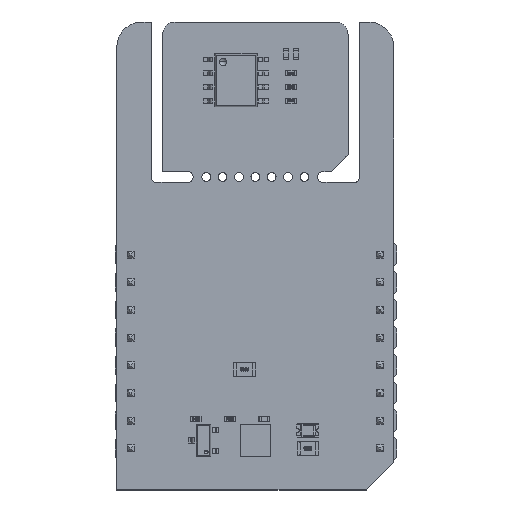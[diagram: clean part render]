
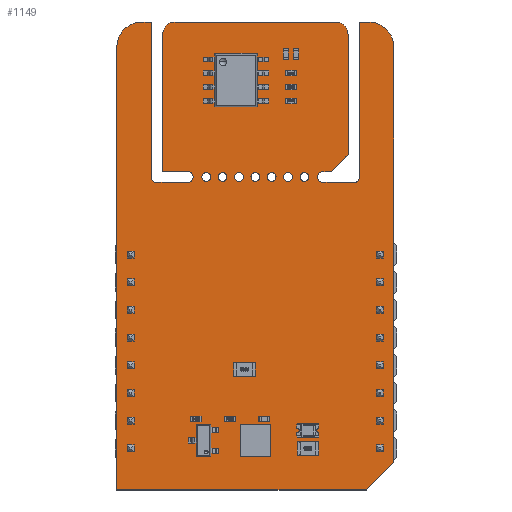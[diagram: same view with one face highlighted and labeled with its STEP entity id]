
A CAD part, top view. The second image highlights one B-rep face of the part: STEP entity #1149.
In plain terms, the highlighted planar face has unit normal (0, 0, 1).
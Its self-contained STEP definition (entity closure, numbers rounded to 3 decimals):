
#112 = VERTEX_POINT('',#113);
#113 = CARTESIAN_POINT('',(1.905,24.8,1.59));
#119 = EDGE_CURVE('',#112,#120,#122,.T.);
#120 = VERTEX_POINT('',#121);
#121 = CARTESIAN_POINT('',(2.305,24.4,1.59));
#122 = CIRCLE('',#123,0.399);
#123 = AXIS2_PLACEMENT_3D('',#124,#125,#126);
#124 = CARTESIAN_POINT('',(2.304,24.799,1.59));
#125 = DIRECTION('',(0.,0.,1.));
#126 = DIRECTION('',(-1.,0.001,0.));
#152 = EDGE_CURVE('',#120,#153,#155,.T.);
#153 = VERTEX_POINT('',#154);
#154 = CARTESIAN_POINT('',(5.23,24.4,1.59));
#155 = LINE('',#156,#157);
#156 = CARTESIAN_POINT('',(2.305,24.4,1.59));
#157 = VECTOR('',#158,1.);
#158 = DIRECTION('',(1.,0.,0.));
#183 = EDGE_CURVE('',#153,#184,#186,.T.);
#184 = VERTEX_POINT('',#185);
#185 = CARTESIAN_POINT('',(5.23,25.4,1.59));
#186 = CIRCLE('',#187,0.5);
#187 = AXIS2_PLACEMENT_3D('',#188,#189,#190);
#188 = CARTESIAN_POINT('',(5.23,24.9,1.59));
#189 = DIRECTION('',(0.,0.,1.));
#190 = DIRECTION('',(-0.,-1.,0.));
#216 = EDGE_CURVE('',#184,#217,#219,.T.);
#217 = VERTEX_POINT('',#218);
#218 = CARTESIAN_POINT('',(2.921,25.4,1.59));
#219 = LINE('',#220,#221);
#220 = CARTESIAN_POINT('',(5.23,25.4,1.59));
#221 = VECTOR('',#222,1.);
#222 = DIRECTION('',(-1.,0.,0.));
#247 = EDGE_CURVE('',#217,#248,#250,.T.);
#248 = VERTEX_POINT('',#249);
#249 = CARTESIAN_POINT('',(2.921,37.973,1.59));
#250 = LINE('',#251,#252);
#251 = CARTESIAN_POINT('',(2.921,25.4,1.59));
#252 = VECTOR('',#253,1.);
#253 = DIRECTION('',(0.,1.,0.));
#278 = EDGE_CURVE('',#248,#279,#281,.T.);
#279 = VERTEX_POINT('',#280);
#280 = CARTESIAN_POINT('',(4.064,39.116,1.59));
#281 = CIRCLE('',#282,1.144);
#282 = AXIS2_PLACEMENT_3D('',#283,#284,#285);
#283 = CARTESIAN_POINT('',(4.065,37.972,1.59));
#284 = DIRECTION('',(0.,0.,-1.));
#285 = DIRECTION('',(-1.,0.001,0.));
#311 = EDGE_CURVE('',#279,#312,#314,.T.);
#312 = VERTEX_POINT('',#313);
#313 = CARTESIAN_POINT('',(18.796,39.116,1.59));
#314 = LINE('',#315,#316);
#315 = CARTESIAN_POINT('',(4.064,39.116,1.59));
#316 = VECTOR('',#317,1.);
#317 = DIRECTION('',(1.,0.,0.));
#342 = EDGE_CURVE('',#312,#343,#345,.T.);
#343 = VERTEX_POINT('',#344);
#344 = CARTESIAN_POINT('',(19.939,37.973,1.59));
#345 = CIRCLE('',#346,1.144);
#346 = AXIS2_PLACEMENT_3D('',#347,#348,#349);
#347 = CARTESIAN_POINT('',(18.795,37.972,1.59));
#348 = DIRECTION('',(0.,0.,-1.));
#349 = DIRECTION('',(0.001,1.,0.));
#375 = EDGE_CURVE('',#343,#376,#378,.T.);
#376 = VERTEX_POINT('',#377);
#377 = CARTESIAN_POINT('',(19.939,26.924,1.59));
#378 = LINE('',#379,#380);
#379 = CARTESIAN_POINT('',(19.939,37.973,1.59));
#380 = VECTOR('',#381,1.);
#381 = DIRECTION('',(0.,-1.,0.));
#406 = EDGE_CURVE('',#376,#407,#409,.T.);
#407 = VERTEX_POINT('',#408);
#408 = CARTESIAN_POINT('',(18.415,25.4,1.59));
#409 = LINE('',#410,#411);
#410 = CARTESIAN_POINT('',(19.939,26.924,1.59));
#411 = VECTOR('',#412,1.);
#412 = DIRECTION('',(-0.707,-0.707,0.));
#437 = EDGE_CURVE('',#407,#438,#440,.T.);
#438 = VERTEX_POINT('',#439);
#439 = CARTESIAN_POINT('',(17.63,25.4,1.59));
#440 = LINE('',#441,#442);
#441 = CARTESIAN_POINT('',(18.415,25.4,1.59));
#442 = VECTOR('',#443,1.);
#443 = DIRECTION('',(-1.,0.,0.));
#468 = EDGE_CURVE('',#438,#469,#471,.T.);
#469 = VERTEX_POINT('',#470);
#470 = CARTESIAN_POINT('',(17.63,24.4,1.59));
#471 = CIRCLE('',#472,0.5);
#472 = AXIS2_PLACEMENT_3D('',#473,#474,#475);
#473 = CARTESIAN_POINT('',(17.63,24.9,1.59));
#474 = DIRECTION('',(0.,-0.,1.));
#475 = DIRECTION('',(0.,1.,0.));
#501 = EDGE_CURVE('',#469,#502,#504,.T.);
#502 = VERTEX_POINT('',#503);
#503 = CARTESIAN_POINT('',(20.555,24.4,1.59));
#504 = LINE('',#505,#506);
#505 = CARTESIAN_POINT('',(17.63,24.4,1.59));
#506 = VECTOR('',#507,1.);
#507 = DIRECTION('',(1.,0.,0.));
#532 = EDGE_CURVE('',#502,#533,#535,.T.);
#533 = VERTEX_POINT('',#534);
#534 = CARTESIAN_POINT('',(20.955,24.8,1.59));
#535 = CIRCLE('',#536,0.399);
#536 = AXIS2_PLACEMENT_3D('',#537,#538,#539);
#537 = CARTESIAN_POINT('',(20.556,24.799,1.59));
#538 = DIRECTION('',(0.,0.,1.));
#539 = DIRECTION('',(-0.001,-1.,0.));
#565 = EDGE_CURVE('',#533,#566,#568,.T.);
#566 = VERTEX_POINT('',#567);
#567 = CARTESIAN_POINT('',(20.955,39.116,1.59));
#568 = LINE('',#569,#570);
#569 = CARTESIAN_POINT('',(20.955,24.8,1.59));
#570 = VECTOR('',#571,1.);
#571 = DIRECTION('',(0.,1.,0.));
#596 = EDGE_CURVE('',#566,#597,#599,.T.);
#597 = VERTEX_POINT('',#598);
#598 = CARTESIAN_POINT('',(21.844,39.116,1.59));
#599 = LINE('',#600,#601);
#600 = CARTESIAN_POINT('',(20.955,39.116,1.59));
#601 = VECTOR('',#602,1.);
#602 = DIRECTION('',(1.,0.,0.));
#627 = EDGE_CURVE('',#597,#628,#630,.T.);
#628 = VERTEX_POINT('',#629);
#629 = CARTESIAN_POINT('',(24.13,36.83,1.59));
#630 = CIRCLE('',#631,2.288);
#631 = AXIS2_PLACEMENT_3D('',#632,#633,#634);
#632 = CARTESIAN_POINT('',(21.842,36.828,1.59));
#633 = DIRECTION('',(0.,0.,-1.));
#634 = DIRECTION('',(0.001,1.,0.));
#660 = EDGE_CURVE('',#628,#661,#663,.T.);
#661 = VERTEX_POINT('',#662);
#662 = CARTESIAN_POINT('',(24.13,-1.27,1.59));
#663 = LINE('',#664,#665);
#664 = CARTESIAN_POINT('',(24.13,36.83,1.59));
#665 = VECTOR('',#666,1.);
#666 = DIRECTION('',(0.,-1.,0.));
#691 = EDGE_CURVE('',#661,#692,#694,.T.);
#692 = VERTEX_POINT('',#693);
#693 = CARTESIAN_POINT('',(21.59,-3.81,1.59));
#694 = LINE('',#695,#696);
#695 = CARTESIAN_POINT('',(24.13,-1.27,1.59));
#696 = VECTOR('',#697,1.);
#697 = DIRECTION('',(-0.707,-0.707,0.));
#722 = EDGE_CURVE('',#692,#723,#725,.T.);
#723 = VERTEX_POINT('',#724);
#724 = CARTESIAN_POINT('',(-1.27,-3.81,1.59));
#725 = LINE('',#726,#727);
#726 = CARTESIAN_POINT('',(21.59,-3.81,1.59));
#727 = VECTOR('',#728,1.);
#728 = DIRECTION('',(-1.,0.,0.));
#753 = EDGE_CURVE('',#723,#754,#756,.T.);
#754 = VERTEX_POINT('',#755);
#755 = CARTESIAN_POINT('',(-1.27,36.83,1.59));
#756 = LINE('',#757,#758);
#757 = CARTESIAN_POINT('',(-1.27,-3.81,1.59));
#758 = VECTOR('',#759,1.);
#759 = DIRECTION('',(0.,1.,0.));
#784 = EDGE_CURVE('',#754,#785,#787,.T.);
#785 = VERTEX_POINT('',#786);
#786 = CARTESIAN_POINT('',(1.016,39.116,1.59));
#787 = CIRCLE('',#788,2.288);
#788 = AXIS2_PLACEMENT_3D('',#789,#790,#791);
#789 = CARTESIAN_POINT('',(1.018,36.828,1.59));
#790 = DIRECTION('',(0.,0.,-1.));
#791 = DIRECTION('',(-1.,0.001,0.));
#817 = EDGE_CURVE('',#785,#818,#820,.T.);
#818 = VERTEX_POINT('',#819);
#819 = CARTESIAN_POINT('',(1.905,39.116,1.59));
#820 = LINE('',#821,#822);
#821 = CARTESIAN_POINT('',(1.016,39.116,1.59));
#822 = VECTOR('',#823,1.);
#823 = DIRECTION('',(1.,0.,0.));
#848 = EDGE_CURVE('',#818,#112,#849,.T.);
#849 = LINE('',#850,#851);
#850 = CARTESIAN_POINT('',(1.905,39.116,1.59));
#851 = VECTOR('',#852,1.);
#852 = DIRECTION('',(0.,-1.,0.));
#872 = VERTEX_POINT('',#873);
#873 = CARTESIAN_POINT('',(10.33,24.9,1.59));
#879 = EDGE_CURVE('',#872,#872,#880,.T.);
#880 = CIRCLE('',#881,0.4);
#881 = AXIS2_PLACEMENT_3D('',#882,#883,#884);
#882 = CARTESIAN_POINT('',(9.93,24.9,1.59));
#883 = DIRECTION('',(0.,0.,1.));
#884 = DIRECTION('',(1.,0.,-0.));
#905 = VERTEX_POINT('',#906);
#906 = CARTESIAN_POINT('',(7.33,24.9,1.59));
#912 = EDGE_CURVE('',#905,#905,#913,.T.);
#913 = CIRCLE('',#914,0.4);
#914 = AXIS2_PLACEMENT_3D('',#915,#916,#917);
#915 = CARTESIAN_POINT('',(6.93,24.9,1.59));
#916 = DIRECTION('',(0.,0.,1.));
#917 = DIRECTION('',(1.,0.,-0.));
#938 = VERTEX_POINT('',#939);
#939 = CARTESIAN_POINT('',(8.83,24.9,1.59));
#945 = EDGE_CURVE('',#938,#938,#946,.T.);
#946 = CIRCLE('',#947,0.4);
#947 = AXIS2_PLACEMENT_3D('',#948,#949,#950);
#948 = CARTESIAN_POINT('',(8.43,24.9,1.59));
#949 = DIRECTION('',(0.,0.,1.));
#950 = DIRECTION('',(1.,0.,-0.));
#971 = VERTEX_POINT('',#972);
#972 = CARTESIAN_POINT('',(14.83,24.9,1.59));
#978 = EDGE_CURVE('',#971,#971,#979,.T.);
#979 = CIRCLE('',#980,0.4);
#980 = AXIS2_PLACEMENT_3D('',#981,#982,#983);
#981 = CARTESIAN_POINT('',(14.43,24.9,1.59));
#982 = DIRECTION('',(0.,0.,1.));
#983 = DIRECTION('',(1.,0.,-0.));
#1004 = VERTEX_POINT('',#1005);
#1005 = CARTESIAN_POINT('',(16.33,24.9,1.59));
#1011 = EDGE_CURVE('',#1004,#1004,#1012,.T.);
#1012 = CIRCLE('',#1013,0.4);
#1013 = AXIS2_PLACEMENT_3D('',#1014,#1015,#1016);
#1014 = CARTESIAN_POINT('',(15.93,24.9,1.59));
#1015 = DIRECTION('',(0.,0.,1.));
#1016 = DIRECTION('',(1.,0.,-0.));
#1037 = VERTEX_POINT('',#1038);
#1038 = CARTESIAN_POINT('',(11.83,24.9,1.59));
#1044 = EDGE_CURVE('',#1037,#1037,#1045,.T.);
#1045 = CIRCLE('',#1046,0.4);
#1046 = AXIS2_PLACEMENT_3D('',#1047,#1048,#1049);
#1047 = CARTESIAN_POINT('',(11.43,24.9,1.59));
#1048 = DIRECTION('',(0.,0.,1.));
#1049 = DIRECTION('',(1.,0.,-0.));
#1070 = VERTEX_POINT('',#1071);
#1071 = CARTESIAN_POINT('',(13.33,24.9,1.59));
#1077 = EDGE_CURVE('',#1070,#1070,#1078,.T.);
#1078 = CIRCLE('',#1079,0.4);
#1079 = AXIS2_PLACEMENT_3D('',#1080,#1081,#1082);
#1080 = CARTESIAN_POINT('',(12.93,24.9,1.59));
#1081 = DIRECTION('',(0.,0.,1.));
#1082 = DIRECTION('',(1.,0.,-0.));
#1149 = ADVANCED_FACE('',(#1150,#1176,#1179,#1182,#1185,#1188,#1191,
    #1194),#1197,.F.);
#1150 = FACE_BOUND('',#1151,.F.);
#1151 = EDGE_LOOP('',(#1152,#1153,#1154,#1155,#1156,#1157,#1158,#1159,
    #1160,#1161,#1162,#1163,#1164,#1165,#1166,#1167,#1168,#1169,#1170,
    #1171,#1172,#1173,#1174,#1175));
#1152 = ORIENTED_EDGE('',*,*,#119,.T.);
#1153 = ORIENTED_EDGE('',*,*,#152,.T.);
#1154 = ORIENTED_EDGE('',*,*,#183,.T.);
#1155 = ORIENTED_EDGE('',*,*,#216,.T.);
#1156 = ORIENTED_EDGE('',*,*,#247,.T.);
#1157 = ORIENTED_EDGE('',*,*,#278,.T.);
#1158 = ORIENTED_EDGE('',*,*,#311,.T.);
#1159 = ORIENTED_EDGE('',*,*,#342,.T.);
#1160 = ORIENTED_EDGE('',*,*,#375,.T.);
#1161 = ORIENTED_EDGE('',*,*,#406,.T.);
#1162 = ORIENTED_EDGE('',*,*,#437,.T.);
#1163 = ORIENTED_EDGE('',*,*,#468,.T.);
#1164 = ORIENTED_EDGE('',*,*,#501,.T.);
#1165 = ORIENTED_EDGE('',*,*,#532,.T.);
#1166 = ORIENTED_EDGE('',*,*,#565,.T.);
#1167 = ORIENTED_EDGE('',*,*,#596,.T.);
#1168 = ORIENTED_EDGE('',*,*,#627,.T.);
#1169 = ORIENTED_EDGE('',*,*,#660,.T.);
#1170 = ORIENTED_EDGE('',*,*,#691,.T.);
#1171 = ORIENTED_EDGE('',*,*,#722,.T.);
#1172 = ORIENTED_EDGE('',*,*,#753,.T.);
#1173 = ORIENTED_EDGE('',*,*,#784,.T.);
#1174 = ORIENTED_EDGE('',*,*,#817,.T.);
#1175 = ORIENTED_EDGE('',*,*,#848,.T.);
#1176 = FACE_BOUND('',#1177,.F.);
#1177 = EDGE_LOOP('',(#1178));
#1178 = ORIENTED_EDGE('',*,*,#879,.T.);
#1179 = FACE_BOUND('',#1180,.F.);
#1180 = EDGE_LOOP('',(#1181));
#1181 = ORIENTED_EDGE('',*,*,#912,.T.);
#1182 = FACE_BOUND('',#1183,.F.);
#1183 = EDGE_LOOP('',(#1184));
#1184 = ORIENTED_EDGE('',*,*,#945,.T.);
#1185 = FACE_BOUND('',#1186,.F.);
#1186 = EDGE_LOOP('',(#1187));
#1187 = ORIENTED_EDGE('',*,*,#978,.T.);
#1188 = FACE_BOUND('',#1189,.F.);
#1189 = EDGE_LOOP('',(#1190));
#1190 = ORIENTED_EDGE('',*,*,#1011,.T.);
#1191 = FACE_BOUND('',#1192,.F.);
#1192 = EDGE_LOOP('',(#1193));
#1193 = ORIENTED_EDGE('',*,*,#1044,.T.);
#1194 = FACE_BOUND('',#1195,.F.);
#1195 = EDGE_LOOP('',(#1196));
#1196 = ORIENTED_EDGE('',*,*,#1077,.T.);
#1197 = PLANE('',#1198);
#1198 = AXIS2_PLACEMENT_3D('',#1199,#1200,#1201);
#1199 = CARTESIAN_POINT('',(11.288,21.814,1.59));
#1200 = DIRECTION('',(-0.,-0.,-1.));
#1201 = DIRECTION('',(-1.,0.,0.));
